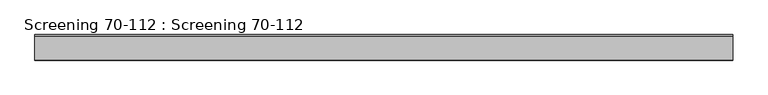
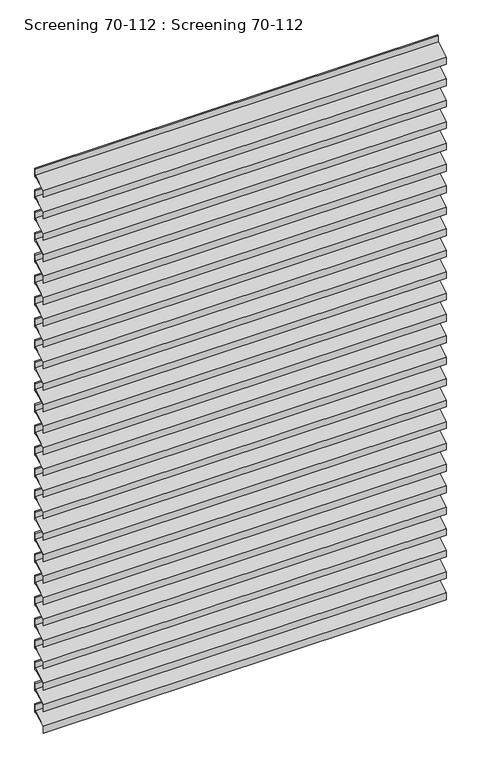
"""IFC4 building model written with IfcOpenShell, lengths in millimetres: plate geometry, Screening 70-112 : Screening 70-112."""

import ifcopenshell
import ifcopenshell.guid

model = None  # the IFC model being written
_history = None  # IfcOwnerHistory: only IFC2X3 demands one
_inside = {}  # id of a spatial element -> (the spatial element, [elements in it])
_under = {}  # id of a project, library or spatial element -> (it, [spatial elements below it])
_declared = {}  # id of a project -> (the project, [libraries it declares])
_typed = {}  # id of a type object -> (the type object, [elements of that type])
_made_of = {}  # id of a material, layer set ... -> (it, [elements and type objects made of it])


def new_model(schema):
    """Start an empty IFC model of exactly this schema.

    Asked for "IFC4X3", IfcOpenShell would pick the latest addendum, in which some entities
    have other attributes; the version numbers below select the first issue.
    IFC2X3 requires an IfcOwnerHistory on every rooted entity: one is made here for all.
    """
    global model, _history
    if schema == "IFC4X3":
        model = ifcopenshell.file(schema_version=(4, 3, 0, 0))
    else:
        model = ifcopenshell.file(schema=schema)
    _inside.clear()
    _under.clear()
    _declared.clear()
    _typed.clear()
    _made_of.clear()
    _history = None
    if model.schema == "IFC2X3":
        org = make("IfcOrganization", Name="unknown")
        user = make(
            "IfcPersonAndOrganization",
            ThePerson=make("IfcPerson", FamilyName="unknown"),
            TheOrganization=org,
        )
        app = make(
            "IfcApplication",
            ApplicationDeveloper=org,
            Version="unknown",
            ApplicationFullName="unknown",
            ApplicationIdentifier="unknown",
        )
        _history = make(
            "IfcOwnerHistory",
            OwningUser=user,
            OwningApplication=app,
            ChangeAction="ADDED",
            CreationDate=0,
        )
    return model


def make(cls, **values):
    """One entity of the class cls with the attributes given. An attribute that is None is left unset."""
    return model.create_entity(
        cls, **{name: value for name, value in values.items() if value is not None}
    )


def rooted(cls, **values):
    """An entity with a GlobalId (a new one), such as an element, a storey or a relation."""
    return make(cls, GlobalId=ifcopenshell.guid.new(), OwnerHistory=_history, **values)


def si_unit(unit_type, name, prefix=None):
    """IfcSIUnit, for example si_unit("LENGTHUNIT", "METRE", prefix="MILLI")."""
    return make("IfcSIUnit", UnitType=unit_type, Prefix=prefix, Name=name)


def assignment(units):
    """IfcUnitAssignment: the units of a project."""
    return None if units is None else make("IfcUnitAssignment", Units=units)


def point(xyz):
    """IfcCartesianPoint."""
    return None if xyz is None else make("IfcCartesianPoint", Coordinates=xyz)


def direction(xyz):
    """IfcDirection."""
    return None if xyz is None else make("IfcDirection", DirectionRatios=xyz)


def frame(location, z_axis=None, x_axis=None):
    """IfcAxis2Placement3D, a coordinate frame: its origin and axes. An axis left out is left unset."""
    return make(
        "IfcAxis2Placement3D",
        Location=point(location),
        Axis=direction(z_axis),
        RefDirection=direction(x_axis),
    )


def frame_2d(location, x_axis=None):
    """IfcAxis2Placement2D, a coordinate frame in the plane: its origin and x axis."""
    return make(
        "IfcAxis2Placement2D", Location=point(location), RefDirection=direction(x_axis)
    )


def origin():
    """The frame at (0, 0, 0) with its axes left unset."""
    return frame((0.0, 0.0, 0.0))


def place(relative_to, where):
    """IfcLocalPlacement: puts the frame where relative to a parent placement (None: the world)."""
    return make(
        "IfcLocalPlacement", PlacementRelTo=relative_to, RelativePlacement=where
    )


def context(
    kind, dimensions, precision=None, world=None, true_north=None, identifier=None
):
    """IfcGeometricRepresentationContext, for example the 3D "Model" context."""
    return make(
        "IfcGeometricRepresentationContext",
        ContextIdentifier=identifier,
        ContextType=kind,
        CoordinateSpaceDimension=dimensions,
        Precision=precision,
        WorldCoordinateSystem=world,
        TrueNorth=true_north,
    )


def project(units=None, contexts=None):
    """IfcProject with its units and contexts."""
    return rooted(
        "IfcProject",
        Name="project",
        RepresentationContexts=contexts,
        UnitsInContext=assignment(units),
    )


def spatial(cls, under=None, at=None, **own):
    """A site, building, storey or space (cls), placed at a placement, below another one or the project."""
    s = rooted(cls, ObjectPlacement=at, **own)
    if under is not None:
        _under.setdefault(under.id(), (under, []))[1].append(s)
    return s


def polyline(points):
    """IfcPolyline through the points."""
    return make("IfcPolyline", Points=[point(p) for p in points])


def circle_curve(where, radius):
    """IfcCircle in the frame where."""
    return make("IfcCircle", Position=where, Radius=radius)


def trimmed(basis, trim1, trim2, sense, master):
    """IfcTrimmedCurve: the piece of a basis curve between two trims."""
    return make(
        "IfcTrimmedCurve",
        BasisCurve=basis,
        Trim1=trim1,
        Trim2=trim2,
        SenseAgreement=sense,
        MasterRepresentation=master,
    )


def segment(curve, same_sense, transition):
    """IfcCompositeCurveSegment."""
    return make(
        "IfcCompositeCurveSegment",
        Transition=transition,
        SameSense=same_sense,
        ParentCurve=curve,
    )


def composite_curve(segments, self_intersect=None):
    """IfcCompositeCurve: segments joined end to end."""
    return make("IfcCompositeCurve", Segments=segments, SelfIntersect=self_intersect)


def outline(outer, holes=None, kind="AREA"):
    """IfcArbitraryClosedProfileDef: a profile drawn as a closed curve; with holes, ...WithVoids."""
    if holes is None:
        return make("IfcArbitraryClosedProfileDef", ProfileType=kind, OuterCurve=outer)
    return make(
        "IfcArbitraryProfileDefWithVoids",
        ProfileType=kind,
        OuterCurve=outer,
        InnerCurves=holes,
    )


def extrude(swept, where, along, depth):
    """IfcExtrudedAreaSolid: the profile swept, set in the frame where, extruded along a direction by depth."""
    return make(
        "IfcExtrudedAreaSolid",
        SweptArea=swept,
        Position=where,
        ExtrudedDirection=direction(along),
        Depth=depth,
    )


def shape(context_of_items, identifier, shape_type, items):
    """IfcShapeRepresentation: the items that make up one representation, for example the "Body"."""
    return make(
        "IfcShapeRepresentation",
        ContextOfItems=context_of_items,
        RepresentationIdentifier=identifier,
        RepresentationType=shape_type,
        Items=items,
    )


def source(mapping_origin, context_of_items, identifier, shape_type, items):
    """IfcRepresentationMap: a shape defined once, which mapped items show again and again."""
    return make(
        "IfcRepresentationMap",
        MappingOrigin=mapping_origin,
        MappedRepresentation=shape(context_of_items, identifier, shape_type, items),
    )


def transform(
    local_origin,
    x_axis=None,
    y_axis=None,
    z_axis=None,
    scale=None,
    scale2=None,
    scale3=None,
    uniform=True,
):
    """IfcCartesianTransformationOperator3D, or its non-uniform kind. x_axis, y_axis, z_axis: its Axis1, 2, 3."""
    if uniform:
        return make(
            "IfcCartesianTransformationOperator3D",
            Axis1=direction(x_axis),
            Axis2=direction(y_axis),
            LocalOrigin=point(local_origin),
            Scale=scale,
            Axis3=direction(z_axis),
        )
    return make(
        "IfcCartesianTransformationOperator3DnonUniform",
        Axis1=direction(x_axis),
        Axis2=direction(y_axis),
        LocalOrigin=point(local_origin),
        Scale=scale,
        Axis3=direction(z_axis),
        Scale2=scale2,
        Scale3=scale3,
    )


def mapped(mapping_source, mapping_target):
    """IfcMappedItem: shows the shape of a source again, moved by a transform."""
    return make(
        "IfcMappedItem", MappingSource=mapping_source, MappingTarget=mapping_target
    )


def made_of(thing, what):
    """Note that an element or type object is made of a material, layer set ...; save() writes the relation."""
    if what is not None:
        _made_of.setdefault(what.id(), (what, []))[1].append(thing)
    return thing


def element(
    cls,
    number,
    at=None,
    inside=None,
    cuts=None,
    type_object=None,
    material=None,
    context=None,
    identifier="Body",
    shape_type=None,
    held_by="IfcProductDefinitionShape",
    body=None,
    shapes=None,
    **own,
):
    """One element of the class cls, such as IfcWall. Its Tag is "e" and its number.

    at: its placement. inside: the storey or other place that contains it. cuts: it is an
    opening in that element (IfcRelVoidsElement). A single representation is given by context,
    identifier, shape_type and body (its items); several are given by shapes. held_by: the class
    of the entity that holds the representations. save() writes the other relations.
    """
    e = rooted(cls, Tag="e%d" % number, ObjectPlacement=at, **own)
    if body is not None:
        shapes = [shape(context, identifier, shape_type, body)]
    if shapes is not None:
        e.Representation = make(held_by, Representations=shapes)
    if inside is not None:
        _inside.setdefault(inside.id(), (inside, []))[1].append(e)
    if cuts is not None:
        rooted(
            "IfcRelVoidsElement", RelatingBuildingElement=cuts, RelatedOpeningElement=e
        )
    if type_object is not None:
        _typed.setdefault(type_object.id(), (type_object, []))[1].append(e)
    return made_of(e, material)


def aggregate(whole, parts):
    """IfcRelAggregates: a whole, such as a stair, and the parts it consists of."""
    return rooted("IfcRelAggregates", RelatingObject=whole, RelatedObjects=parts)


def save(model, path):
    """Write the relations noted so far, then the file.

    IfcRelAggregates (storeys below a building ...), IfcRelContainedInSpatialStructure (elements
    in a storey), IfcRelDefinesByType, IfcRelAssociatesMaterial and IfcRelDeclares: one each for
    every whole, place, type object, material and project.
    """
    for whole, parts in _under.values():
        aggregate(whole, parts)
    for where, things in _inside.values():
        rooted(
            "IfcRelContainedInSpatialStructure",
            RelatedElements=things,
            RelatingStructure=where,
        )
    for kind, things in _typed.values():
        rooted("IfcRelDefinesByType", RelatedObjects=things, RelatingType=kind)
    for what, things in _made_of.values():
        rooted("IfcRelAssociatesMaterial", RelatedObjects=things, RelatingMaterial=what)
    for by, libraries in _declared.values():
        rooted("IfcRelDeclares", RelatingContext=by, RelatedDefinitions=libraries)
    model.write(path)


def screening_70_112_screening_70_112_5289f8e1(model_context):
    return source(origin(), model_context, "Body", "SweptSolid", [
        extrude(outline(composite_curve([segment(polyline([(-73.0, 2824.6), (-73.0, 2860.0291809)]), True, "CONTINUOUS"), segment(trimmed(circle_curve(frame_2d((-534.237547, 3738.5902569)), 992.2749816), [point((-73.0, 2860.0291809))], [point((-4.0, 2899.8663555))], True, "CARTESIAN"), True, "CONTINUOUS"), segment(polyline([(-4.0, 2899.8663555), (-4.0, 2930.509614), (0.0, 2933.6725089), (0.0, 2889.1482493), (-17.4871094, 2889.1482493)]), True, "CONTINUOUS"), segment(trimmed(circle_curve(frame_2d((-534.237547, 3738.5902569)), 994.2749816), [point((-17.4871094, 2889.1482493))], [point((-71.0, 2858.8211315))], False, "CARTESIAN"), True, "CONTINUOUS"), segment(polyline([(-71.0, 2858.8211315), (-71.0, 2824.6), (-73.0, 2824.6)]), True, "CONTINUOUS")], self_intersect=False)), frame((-1000.0, 0.0, 0.0), z_axis=(1.0, 0.0, 0.0), x_axis=(0.0, 1.0, 0.0)), (0.0, 0.0, 1.0), 2000.0),
        extrude(outline(composite_curve([segment(polyline([(-73.0, 2712.1), (-73.0, 2747.5291809)]), True, "CONTINUOUS"), segment(trimmed(circle_curve(frame_2d((-534.237547, 3626.0902569)), 992.2749816), [point((-73.0, 2747.5291809))], [point((-4.0, 2787.3663555))], True, "CARTESIAN"), True, "CONTINUOUS"), segment(polyline([(-4.0, 2787.3663555), (-4.0, 2818.009614), (0.0, 2821.1725089), (0.0, 2776.6482493), (-17.4871094, 2776.6482493)]), True, "CONTINUOUS"), segment(trimmed(circle_curve(frame_2d((-534.237547, 3626.0902569)), 994.2749816), [point((-17.4871094, 2776.6482493))], [point((-71.0, 2746.3211315))], False, "CARTESIAN"), True, "CONTINUOUS"), segment(polyline([(-71.0, 2746.3211315), (-71.0, 2712.1), (-73.0, 2712.1)]), True, "CONTINUOUS")], self_intersect=False)), frame((-1000.0, 0.0, 0.0), z_axis=(1.0, 0.0, 0.0), x_axis=(0.0, 1.0, 0.0)), (0.0, 0.0, 1.0), 2000.0),
        extrude(outline(composite_curve([segment(polyline([(-73.0, 2599.6), (-73.0, 2635.0291809)]), True, "CONTINUOUS"), segment(trimmed(circle_curve(frame_2d((-534.237547, 3513.5902569)), 992.2749816), [point((-73.0, 2635.0291809))], [point((-4.0, 2674.8663555))], True, "CARTESIAN"), True, "CONTINUOUS"), segment(polyline([(-4.0, 2674.8663555), (-4.0, 2705.509614), (0.0, 2708.6725089), (0.0, 2664.1482493), (-17.4871094, 2664.1482493)]), True, "CONTINUOUS"), segment(trimmed(circle_curve(frame_2d((-534.237547, 3513.5902569)), 994.2749816), [point((-17.4871094, 2664.1482493))], [point((-71.0, 2633.8211315))], False, "CARTESIAN"), True, "CONTINUOUS"), segment(polyline([(-71.0, 2633.8211315), (-71.0, 2599.6), (-73.0, 2599.6)]), True, "CONTINUOUS")], self_intersect=False)), frame((-1000.0, 0.0, 0.0), z_axis=(1.0, 0.0, 0.0), x_axis=(0.0, 1.0, 0.0)), (0.0, 0.0, 1.0), 2000.0),
        extrude(outline(composite_curve([segment(polyline([(-73.0, 2487.1), (-73.0, 2522.5291809)]), True, "CONTINUOUS"), segment(trimmed(circle_curve(frame_2d((-534.237547, 3401.0902569)), 992.2749816), [point((-73.0, 2522.5291809))], [point((-4.0, 2562.3663555))], True, "CARTESIAN"), True, "CONTINUOUS"), segment(polyline([(-4.0, 2562.3663555), (-4.0, 2593.009614), (0.0, 2596.1725089), (0.0, 2551.6482493), (-17.4871094, 2551.6482493)]), True, "CONTINUOUS"), segment(trimmed(circle_curve(frame_2d((-534.237547, 3401.0902569)), 994.2749816), [point((-17.4871094, 2551.6482493))], [point((-71.0, 2521.3211315))], False, "CARTESIAN"), True, "CONTINUOUS"), segment(polyline([(-71.0, 2521.3211315), (-71.0, 2487.1), (-73.0, 2487.1)]), True, "CONTINUOUS")], self_intersect=False)), frame((-1000.0, 0.0, 0.0), z_axis=(1.0, 0.0, 0.0), x_axis=(0.0, 1.0, 0.0)), (0.0, 0.0, 1.0), 2000.0),
        extrude(outline(composite_curve([segment(polyline([(-73.0, 2374.6), (-73.0, 2410.0291809)]), True, "CONTINUOUS"), segment(trimmed(circle_curve(frame_2d((-534.237547, 3288.5902569)), 992.2749816), [point((-73.0, 2410.0291809))], [point((-4.0, 2449.8663555))], True, "CARTESIAN"), True, "CONTINUOUS"), segment(polyline([(-4.0, 2449.8663555), (-4.0, 2480.509614), (0.0, 2483.6725089), (0.0, 2439.1482493), (-17.4871094, 2439.1482493)]), True, "CONTINUOUS"), segment(trimmed(circle_curve(frame_2d((-534.237547, 3288.5902569)), 994.2749816), [point((-17.4871094, 2439.1482493))], [point((-71.0, 2408.8211315))], False, "CARTESIAN"), True, "CONTINUOUS"), segment(polyline([(-71.0, 2408.8211315), (-71.0, 2374.6), (-73.0, 2374.6)]), True, "CONTINUOUS")], self_intersect=False)), frame((-1000.0, 0.0, 0.0), z_axis=(1.0, 0.0, 0.0), x_axis=(0.0, 1.0, 0.0)), (0.0, 0.0, 1.0), 2000.0),
        extrude(outline(composite_curve([segment(polyline([(-73.0, 2262.1), (-73.0, 2297.5291809)]), True, "CONTINUOUS"), segment(trimmed(circle_curve(frame_2d((-534.237547, 3176.0902569)), 992.2749816), [point((-73.0, 2297.5291809))], [point((-4.0, 2337.3663555))], True, "CARTESIAN"), True, "CONTINUOUS"), segment(polyline([(-4.0, 2337.3663555), (-4.0, 2368.009614), (0.0, 2371.1725089), (0.0, 2326.6482493), (-17.4871094, 2326.6482493)]), True, "CONTINUOUS"), segment(trimmed(circle_curve(frame_2d((-534.237547, 3176.0902569)), 994.2749816), [point((-17.4871094, 2326.6482493))], [point((-71.0, 2296.3211315))], False, "CARTESIAN"), True, "CONTINUOUS"), segment(polyline([(-71.0, 2296.3211315), (-71.0, 2262.1), (-73.0, 2262.1)]), True, "CONTINUOUS")], self_intersect=False)), frame((-1000.0, 0.0, 0.0), z_axis=(1.0, 0.0, 0.0), x_axis=(0.0, 1.0, 0.0)), (0.0, 0.0, 1.0), 2000.0),
        extrude(outline(composite_curve([segment(polyline([(-73.0, 2149.6), (-73.0, 2185.0291809)]), True, "CONTINUOUS"), segment(trimmed(circle_curve(frame_2d((-534.237547, 3063.5902569)), 992.2749816), [point((-73.0, 2185.0291809))], [point((-4.0, 2224.8663555))], True, "CARTESIAN"), True, "CONTINUOUS"), segment(polyline([(-4.0, 2224.8663555), (-4.0, 2255.509614), (0.0, 2258.6725089), (0.0, 2214.1482493), (-17.4871094, 2214.1482493)]), True, "CONTINUOUS"), segment(trimmed(circle_curve(frame_2d((-534.237547, 3063.5902569)), 994.2749816), [point((-17.4871094, 2214.1482493))], [point((-71.0, 2183.8211315))], False, "CARTESIAN"), True, "CONTINUOUS"), segment(polyline([(-71.0, 2183.8211315), (-71.0, 2149.6), (-73.0, 2149.6)]), True, "CONTINUOUS")], self_intersect=False)), frame((-1000.0, 0.0, 0.0), z_axis=(1.0, 0.0, 0.0), x_axis=(0.0, 1.0, 0.0)), (0.0, 0.0, 1.0), 2000.0),
        extrude(outline(composite_curve([segment(polyline([(-73.0, 2037.1), (-73.0, 2072.5291809)]), True, "CONTINUOUS"), segment(trimmed(circle_curve(frame_2d((-534.237547, 2951.0902569)), 992.2749816), [point((-73.0, 2072.5291809))], [point((-4.0, 2112.3663555))], True, "CARTESIAN"), True, "CONTINUOUS"), segment(polyline([(-4.0, 2112.3663555), (-4.0, 2143.009614), (0.0, 2146.1725089), (0.0, 2101.6482493), (-17.4871094, 2101.6482493)]), True, "CONTINUOUS"), segment(trimmed(circle_curve(frame_2d((-534.237547, 2951.0902569)), 994.2749816), [point((-17.4871094, 2101.6482493))], [point((-71.0, 2071.3211315))], False, "CARTESIAN"), True, "CONTINUOUS"), segment(polyline([(-71.0, 2071.3211315), (-71.0, 2037.1), (-73.0, 2037.1)]), True, "CONTINUOUS")], self_intersect=False)), frame((-1000.0, 0.0, 0.0), z_axis=(1.0, 0.0, 0.0), x_axis=(0.0, 1.0, 0.0)), (0.0, 0.0, 1.0), 2000.0),
        extrude(outline(composite_curve([segment(polyline([(-73.0, 1924.6), (-73.0, 1960.0291809)]), True, "CONTINUOUS"), segment(trimmed(circle_curve(frame_2d((-534.237547, 2838.5902569)), 992.2749816), [point((-73.0, 1960.0291809))], [point((-4.0, 1999.8663555))], True, "CARTESIAN"), True, "CONTINUOUS"), segment(polyline([(-4.0, 1999.8663555), (-4.0, 2030.509614), (0.0, 2033.6725089), (0.0, 1989.1482493), (-17.4871094, 1989.1482493)]), True, "CONTINUOUS"), segment(trimmed(circle_curve(frame_2d((-534.237547, 2838.5902569)), 994.2749816), [point((-17.4871094, 1989.1482493))], [point((-71.0, 1958.8211315))], False, "CARTESIAN"), True, "CONTINUOUS"), segment(polyline([(-71.0, 1958.8211315), (-71.0, 1924.6), (-73.0, 1924.6)]), True, "CONTINUOUS")], self_intersect=False)), frame((-1000.0, 0.0, 0.0), z_axis=(1.0, 0.0, 0.0), x_axis=(0.0, 1.0, 0.0)), (0.0, 0.0, 1.0), 2000.0),
        extrude(outline(composite_curve([segment(polyline([(-73.0, 1812.1), (-73.0, 1847.5291809)]), True, "CONTINUOUS"), segment(trimmed(circle_curve(frame_2d((-534.237547, 2726.0902569)), 992.2749816), [point((-73.0, 1847.5291809))], [point((-4.0, 1887.3663555))], True, "CARTESIAN"), True, "CONTINUOUS"), segment(polyline([(-4.0, 1887.3663555), (-4.0, 1918.009614), (0.0, 1921.1725089), (0.0, 1876.6482493), (-17.4871094, 1876.6482493)]), True, "CONTINUOUS"), segment(trimmed(circle_curve(frame_2d((-534.237547, 2726.0902569)), 994.2749816), [point((-17.4871094, 1876.6482493))], [point((-71.0, 1846.3211315))], False, "CARTESIAN"), True, "CONTINUOUS"), segment(polyline([(-71.0, 1846.3211315), (-71.0, 1812.1), (-73.0, 1812.1)]), True, "CONTINUOUS")], self_intersect=False)), frame((-1000.0, 0.0, 0.0), z_axis=(1.0, 0.0, 0.0), x_axis=(0.0, 1.0, 0.0)), (0.0, 0.0, 1.0), 2000.0),
        extrude(outline(composite_curve([segment(polyline([(-73.0, 1699.6), (-73.0, 1735.0291809)]), True, "CONTINUOUS"), segment(trimmed(circle_curve(frame_2d((-534.237547, 2613.5902569)), 992.2749816), [point((-73.0, 1735.0291809))], [point((-4.0, 1774.8663555))], True, "CARTESIAN"), True, "CONTINUOUS"), segment(polyline([(-4.0, 1774.8663555), (-4.0, 1805.509614), (0.0, 1808.6725089), (0.0, 1764.1482493), (-17.4871094, 1764.1482493)]), True, "CONTINUOUS"), segment(trimmed(circle_curve(frame_2d((-534.237547, 2613.5902569)), 994.2749816), [point((-17.4871094, 1764.1482493))], [point((-71.0, 1733.8211315))], False, "CARTESIAN"), True, "CONTINUOUS"), segment(polyline([(-71.0, 1733.8211315), (-71.0, 1699.6), (-73.0, 1699.6)]), True, "CONTINUOUS")], self_intersect=False)), frame((-1000.0, 0.0, 0.0), z_axis=(1.0, 0.0, 0.0), x_axis=(0.0, 1.0, 0.0)), (0.0, 0.0, 1.0), 2000.0),
        extrude(outline(composite_curve([segment(polyline([(-73.0, 1587.1), (-73.0, 1622.5291809)]), True, "CONTINUOUS"), segment(trimmed(circle_curve(frame_2d((-534.237547, 2501.0902569)), 992.2749816), [point((-73.0, 1622.5291809))], [point((-4.0, 1662.3663555))], True, "CARTESIAN"), True, "CONTINUOUS"), segment(polyline([(-4.0, 1662.3663555), (-4.0, 1693.009614), (0.0, 1696.1725089), (0.0, 1651.6482493), (-17.4871094, 1651.6482493)]), True, "CONTINUOUS"), segment(trimmed(circle_curve(frame_2d((-534.237547, 2501.0902569)), 994.2749816), [point((-17.4871094, 1651.6482493))], [point((-71.0, 1621.3211315))], False, "CARTESIAN"), True, "CONTINUOUS"), segment(polyline([(-71.0, 1621.3211315), (-71.0, 1587.1), (-73.0, 1587.1)]), True, "CONTINUOUS")], self_intersect=False)), frame((-1000.0, 0.0, 0.0), z_axis=(1.0, 0.0, 0.0), x_axis=(0.0, 1.0, 0.0)), (0.0, 0.0, 1.0), 2000.0),
        extrude(outline(composite_curve([segment(polyline([(-73.0, 1474.6), (-73.0, 1510.0291809)]), True, "CONTINUOUS"), segment(trimmed(circle_curve(frame_2d((-534.237547, 2388.5902569)), 992.2749816), [point((-73.0, 1510.0291809))], [point((-4.0, 1549.8663555))], True, "CARTESIAN"), True, "CONTINUOUS"), segment(polyline([(-4.0, 1549.8663555), (-4.0, 1580.509614), (0.0, 1583.6725089), (0.0, 1539.1482493), (-17.4871094, 1539.1482493)]), True, "CONTINUOUS"), segment(trimmed(circle_curve(frame_2d((-534.237547, 2388.5902569)), 994.2749816), [point((-17.4871094, 1539.1482493))], [point((-71.0, 1508.8211315))], False, "CARTESIAN"), True, "CONTINUOUS"), segment(polyline([(-71.0, 1508.8211315), (-71.0, 1474.6), (-73.0, 1474.6)]), True, "CONTINUOUS")], self_intersect=False)), frame((-1000.0, 0.0, 0.0), z_axis=(1.0, 0.0, 0.0), x_axis=(0.0, 1.0, 0.0)), (0.0, 0.0, 1.0), 2000.0),
        extrude(outline(composite_curve([segment(polyline([(-73.0, 1362.1), (-73.0, 1397.5291809)]), True, "CONTINUOUS"), segment(trimmed(circle_curve(frame_2d((-534.237547, 2276.0902569)), 992.2749816), [point((-73.0, 1397.5291809))], [point((-4.0, 1437.3663555))], True, "CARTESIAN"), True, "CONTINUOUS"), segment(polyline([(-4.0, 1437.3663555), (-4.0, 1468.009614), (0.0, 1471.1725089), (0.0, 1426.6482493), (-17.4871094, 1426.6482493)]), True, "CONTINUOUS"), segment(trimmed(circle_curve(frame_2d((-534.237547, 2276.0902569)), 994.2749816), [point((-17.4871094, 1426.6482493))], [point((-71.0, 1396.3211315))], False, "CARTESIAN"), True, "CONTINUOUS"), segment(polyline([(-71.0, 1396.3211315), (-71.0, 1362.1), (-73.0, 1362.1)]), True, "CONTINUOUS")], self_intersect=False)), frame((-1000.0, 0.0, 0.0), z_axis=(1.0, 0.0, 0.0), x_axis=(0.0, 1.0, 0.0)), (0.0, 0.0, 1.0), 2000.0),
        extrude(outline(composite_curve([segment(polyline([(-73.0, 1249.6), (-73.0, 1285.0291809)]), True, "CONTINUOUS"), segment(trimmed(circle_curve(frame_2d((-534.237547, 2163.5902569)), 992.2749816), [point((-73.0, 1285.0291809))], [point((-4.0, 1324.8663555))], True, "CARTESIAN"), True, "CONTINUOUS"), segment(polyline([(-4.0, 1324.8663555), (-4.0, 1355.509614), (0.0, 1358.6725089), (0.0, 1314.1482493), (-17.4871094, 1314.1482493)]), True, "CONTINUOUS"), segment(trimmed(circle_curve(frame_2d((-534.237547, 2163.5902569)), 994.2749816), [point((-17.4871094, 1314.1482493))], [point((-71.0, 1283.8211315))], False, "CARTESIAN"), True, "CONTINUOUS"), segment(polyline([(-71.0, 1283.8211315), (-71.0, 1249.6), (-73.0, 1249.6)]), True, "CONTINUOUS")], self_intersect=False)), frame((-1000.0, 0.0, 0.0), z_axis=(1.0, 0.0, 0.0), x_axis=(0.0, 1.0, 0.0)), (0.0, 0.0, 1.0), 2000.0),
        extrude(outline(composite_curve([segment(polyline([(-73.0, 1137.1), (-73.0, 1172.5291809)]), True, "CONTINUOUS"), segment(trimmed(circle_curve(frame_2d((-534.237547, 2051.0902569)), 992.2749816), [point((-73.0, 1172.5291809))], [point((-4.0, 1212.3663555))], True, "CARTESIAN"), True, "CONTINUOUS"), segment(polyline([(-4.0, 1212.3663555), (-4.0, 1243.009614), (0.0, 1246.1725089), (0.0, 1201.6482493), (-17.4871094, 1201.6482493)]), True, "CONTINUOUS"), segment(trimmed(circle_curve(frame_2d((-534.237547, 2051.0902569)), 994.2749816), [point((-17.4871094, 1201.6482493))], [point((-71.0, 1171.3211315))], False, "CARTESIAN"), True, "CONTINUOUS"), segment(polyline([(-71.0, 1171.3211315), (-71.0, 1137.1), (-73.0, 1137.1)]), True, "CONTINUOUS")], self_intersect=False)), frame((-1000.0, 0.0, 0.0), z_axis=(1.0, 0.0, 0.0), x_axis=(0.0, 1.0, 0.0)), (0.0, 0.0, 1.0), 2000.0),
        extrude(outline(composite_curve([segment(polyline([(-73.0, 1024.6), (-73.0, 1060.0291809)]), True, "CONTINUOUS"), segment(trimmed(circle_curve(frame_2d((-534.237547, 1938.5902569)), 992.2749816), [point((-73.0, 1060.0291809))], [point((-4.0, 1099.8663555))], True, "CARTESIAN"), True, "CONTINUOUS"), segment(polyline([(-4.0, 1099.8663555), (-4.0, 1130.509614), (0.0, 1133.6725089), (0.0, 1089.1482493), (-17.4871094, 1089.1482493)]), True, "CONTINUOUS"), segment(trimmed(circle_curve(frame_2d((-534.237547, 1938.5902569)), 994.2749816), [point((-17.4871094, 1089.1482493))], [point((-71.0, 1058.8211315))], False, "CARTESIAN"), True, "CONTINUOUS"), segment(polyline([(-71.0, 1058.8211315), (-71.0, 1024.6), (-73.0, 1024.6)]), True, "CONTINUOUS")], self_intersect=False)), frame((-1000.0, 0.0, 0.0), z_axis=(1.0, 0.0, 0.0), x_axis=(0.0, 1.0, 0.0)), (0.0, 0.0, 1.0), 2000.0),
        extrude(outline(composite_curve([segment(polyline([(-73.0, 912.1), (-73.0, 947.5291809)]), True, "CONTINUOUS"), segment(trimmed(circle_curve(frame_2d((-534.237547, 1826.0902569)), 992.2749816), [point((-73.0, 947.5291809))], [point((-4.0, 987.3663555))], True, "CARTESIAN"), True, "CONTINUOUS"), segment(polyline([(-4.0, 987.3663555), (-4.0, 1018.009614), (0.0, 1021.1725089), (0.0, 976.6482493), (-17.4871094, 976.6482493)]), True, "CONTINUOUS"), segment(trimmed(circle_curve(frame_2d((-534.237547, 1826.0902569)), 994.2749816), [point((-17.4871094, 976.6482493))], [point((-71.0, 946.3211315))], False, "CARTESIAN"), True, "CONTINUOUS"), segment(polyline([(-71.0, 946.3211315), (-71.0, 912.1), (-73.0, 912.1)]), True, "CONTINUOUS")], self_intersect=False)), frame((-1000.0, 0.0, 0.0), z_axis=(1.0, 0.0, 0.0), x_axis=(0.0, 1.0, 0.0)), (0.0, 0.0, 1.0), 2000.0),
        extrude(outline(composite_curve([segment(polyline([(-73.0, 799.6), (-73.0, 835.0291809)]), True, "CONTINUOUS"), segment(trimmed(circle_curve(frame_2d((-534.237547, 1713.5902569)), 992.2749816), [point((-73.0, 835.0291809))], [point((-4.0, 874.8663555))], True, "CARTESIAN"), True, "CONTINUOUS"), segment(polyline([(-4.0, 874.8663555), (-4.0, 905.509614), (0.0, 908.6725089), (0.0, 864.1482493), (-17.4871094, 864.1482493)]), True, "CONTINUOUS"), segment(trimmed(circle_curve(frame_2d((-534.237547, 1713.5902569)), 994.2749816), [point((-17.4871094, 864.1482493))], [point((-71.0, 833.8211315))], False, "CARTESIAN"), True, "CONTINUOUS"), segment(polyline([(-71.0, 833.8211315), (-71.0, 799.6), (-73.0, 799.6)]), True, "CONTINUOUS")], self_intersect=False)), frame((-1000.0, 0.0, 0.0), z_axis=(1.0, 0.0, 0.0), x_axis=(0.0, 1.0, 0.0)), (0.0, 0.0, 1.0), 2000.0),
        extrude(outline(composite_curve([segment(polyline([(-73.0, 687.1), (-73.0, 722.5291809)]), True, "CONTINUOUS"), segment(trimmed(circle_curve(frame_2d((-534.237547, 1601.0902569)), 992.2749816), [point((-73.0, 722.5291809))], [point((-4.0, 762.3663555))], True, "CARTESIAN"), True, "CONTINUOUS"), segment(polyline([(-4.0, 762.3663555), (-4.0, 793.009614), (0.0, 796.1725089), (0.0, 751.6482493), (-17.4871094, 751.6482493)]), True, "CONTINUOUS"), segment(trimmed(circle_curve(frame_2d((-534.237547, 1601.0902569)), 994.2749816), [point((-17.4871094, 751.6482493))], [point((-71.0, 721.3211315))], False, "CARTESIAN"), True, "CONTINUOUS"), segment(polyline([(-71.0, 721.3211315), (-71.0, 687.1), (-73.0, 687.1)]), True, "CONTINUOUS")], self_intersect=False)), frame((-1000.0, 0.0, 0.0), z_axis=(1.0, 0.0, 0.0), x_axis=(0.0, 1.0, 0.0)), (0.0, 0.0, 1.0), 2000.0),
        extrude(outline(composite_curve([segment(polyline([(-73.0, 574.6), (-73.0, 610.0291809)]), True, "CONTINUOUS"), segment(trimmed(circle_curve(frame_2d((-534.237547, 1488.5902569)), 992.2749816), [point((-73.0, 610.0291809))], [point((-4.0, 649.8663555))], True, "CARTESIAN"), True, "CONTINUOUS"), segment(polyline([(-4.0, 649.8663555), (-4.0, 680.509614), (0.0, 683.6725089), (0.0, 639.1482493), (-17.4871094, 639.1482493)]), True, "CONTINUOUS"), segment(trimmed(circle_curve(frame_2d((-534.237547, 1488.5902569)), 994.2749816), [point((-17.4871094, 639.1482493))], [point((-71.0, 608.8211315))], False, "CARTESIAN"), True, "CONTINUOUS"), segment(polyline([(-71.0, 608.8211315), (-71.0, 574.6), (-73.0, 574.6)]), True, "CONTINUOUS")], self_intersect=False)), frame((-1000.0, 0.0, 0.0), z_axis=(1.0, 0.0, 0.0), x_axis=(0.0, 1.0, 0.0)), (0.0, 0.0, 1.0), 2000.0),
        extrude(outline(composite_curve([segment(polyline([(-73.0, 462.1), (-73.0, 497.5291809)]), True, "CONTINUOUS"), segment(trimmed(circle_curve(frame_2d((-534.237547, 1376.0902569)), 992.2749816), [point((-73.0, 497.5291809))], [point((-4.0, 537.3663555))], True, "CARTESIAN"), True, "CONTINUOUS"), segment(polyline([(-4.0, 537.3663555), (-4.0, 568.009614), (0.0, 571.1725089), (0.0, 526.6482493), (-17.4871094, 526.6482493)]), True, "CONTINUOUS"), segment(trimmed(circle_curve(frame_2d((-534.237547, 1376.0902569)), 994.2749816), [point((-17.4871094, 526.6482493))], [point((-71.0, 496.3211315))], False, "CARTESIAN"), True, "CONTINUOUS"), segment(polyline([(-71.0, 496.3211315), (-71.0, 462.1), (-73.0, 462.1)]), True, "CONTINUOUS")], self_intersect=False)), frame((-1000.0, 0.0, 0.0), z_axis=(1.0, 0.0, 0.0), x_axis=(0.0, 1.0, 0.0)), (0.0, 0.0, 1.0), 2000.0),
        extrude(outline(composite_curve([segment(polyline([(-73.0, 349.6), (-73.0, 385.0291809)]), True, "CONTINUOUS"), segment(trimmed(circle_curve(frame_2d((-534.237547, 1263.5902569)), 992.2749816), [point((-73.0, 385.0291809))], [point((-4.0, 424.8663555))], True, "CARTESIAN"), True, "CONTINUOUS"), segment(polyline([(-4.0, 424.8663555), (-4.0, 455.509614), (0.0, 458.6725089), (0.0, 414.1482493), (-17.4871094, 414.1482493)]), True, "CONTINUOUS"), segment(trimmed(circle_curve(frame_2d((-534.237547, 1263.5902569)), 994.2749816), [point((-17.4871094, 414.1482493))], [point((-71.0, 383.8211315))], False, "CARTESIAN"), True, "CONTINUOUS"), segment(polyline([(-71.0, 383.8211315), (-71.0, 349.6), (-73.0, 349.6)]), True, "CONTINUOUS")], self_intersect=False)), frame((-1000.0, 0.0, 0.0), z_axis=(1.0, 0.0, 0.0), x_axis=(0.0, 1.0, 0.0)), (0.0, 0.0, 1.0), 2000.0),
        extrude(outline(composite_curve([segment(polyline([(-73.0, 237.1), (-73.0, 272.5291809)]), True, "CONTINUOUS"), segment(trimmed(circle_curve(frame_2d((-534.237547, 1151.0902569)), 992.2749816), [point((-73.0, 272.5291809))], [point((-4.0, 312.3663555))], True, "CARTESIAN"), True, "CONTINUOUS"), segment(polyline([(-4.0, 312.3663555), (-4.0, 343.009614), (0.0, 346.1725089), (0.0, 301.6482493), (-17.4871094, 301.6482493)]), True, "CONTINUOUS"), segment(trimmed(circle_curve(frame_2d((-534.237547, 1151.0902569)), 994.2749816), [point((-17.4871094, 301.6482493))], [point((-71.0, 271.3211315))], False, "CARTESIAN"), True, "CONTINUOUS"), segment(polyline([(-71.0, 271.3211315), (-71.0, 237.1), (-73.0, 237.1)]), True, "CONTINUOUS")], self_intersect=False)), frame((-1000.0, 0.0, 0.0), z_axis=(1.0, 0.0, 0.0), x_axis=(0.0, 1.0, 0.0)), (0.0, 0.0, 1.0), 2000.0),
        extrude(outline(composite_curve([segment(polyline([(-73.0, 124.6), (-73.0, 160.0291809)]), True, "CONTINUOUS"), segment(trimmed(circle_curve(frame_2d((-534.237547, 1038.5902569)), 992.2749816), [point((-73.0, 160.0291809))], [point((-4.0, 199.8663555))], True, "CARTESIAN"), True, "CONTINUOUS"), segment(polyline([(-4.0, 199.8663555), (-4.0, 230.509614), (0.0, 233.6725089), (0.0, 189.1482493), (-17.4871094, 189.1482493)]), True, "CONTINUOUS"), segment(trimmed(circle_curve(frame_2d((-534.237547, 1038.5902569)), 994.2749816), [point((-17.4871094, 189.1482493))], [point((-71.0, 158.8211315))], False, "CARTESIAN"), True, "CONTINUOUS"), segment(polyline([(-71.0, 158.8211315), (-71.0, 124.6), (-73.0, 124.6)]), True, "CONTINUOUS")], self_intersect=False)), frame((-1000.0, 0.0, 0.0), z_axis=(1.0, 0.0, 0.0), x_axis=(0.0, 1.0, 0.0)), (0.0, 0.0, 1.0), 2000.0),
        extrude(outline(composite_curve([segment(polyline([(-73.0, 12.1), (-73.0, 47.5291809)]), True, "CONTINUOUS"), segment(trimmed(circle_curve(frame_2d((-534.237547, 926.0902569)), 992.2749816), [point((-73.0, 47.5291809))], [point((-4.0, 87.3663555))], True, "CARTESIAN"), True, "CONTINUOUS"), segment(polyline([(-4.0, 87.3663555), (-4.0, 118.009614), (0.0, 121.1725089), (0.0, 76.6482493), (-17.4871094, 76.6482493)]), True, "CONTINUOUS"), segment(trimmed(circle_curve(frame_2d((-534.237547, 926.0902569)), 994.2749816), [point((-17.4871094, 76.6482493))], [point((-71.0, 46.3211315))], False, "CARTESIAN"), True, "CONTINUOUS"), segment(polyline([(-71.0, 46.3211315), (-71.0, 12.1), (-73.0, 12.1)]), True, "CONTINUOUS")], self_intersect=False)), frame((-1000.0, 0.0, 0.0), z_axis=(1.0, 0.0, 0.0), x_axis=(0.0, 1.0, 0.0)), (0.0, 0.0, 1.0), 2000.0),
    ])


if __name__ == "__main__":
    model = new_model("IFC4")
    model_context = context("Model", 3, world=origin())
    ifc_project = project(units=[si_unit("LENGTHUNIT", "METRE", prefix="MILLI")], contexts=[model_context])
    site = spatial("IfcSite", under=ifc_project)
    building = spatial("IfcBuilding", under=site)
    placement = place(None, origin())
    screening_70_112_screening_70_112_shape = screening_70_112_screening_70_112_5289f8e1(model_context)
    element("IfcPlate", 1, ObjectType="Screening 70-112 : Screening 70-112", at=placement, inside=building, context=model_context, shape_type="MappedRepresentation", body=[
        mapped(screening_70_112_screening_70_112_shape, transform((0.0, 0.0, 0.0), x_axis=(1.0, 0.0, 0.0), y_axis=(0.0, 1.0, 0.0), z_axis=(0.0, 0.0, 1.0))),
    ])
    save(model, "model.ifc")
